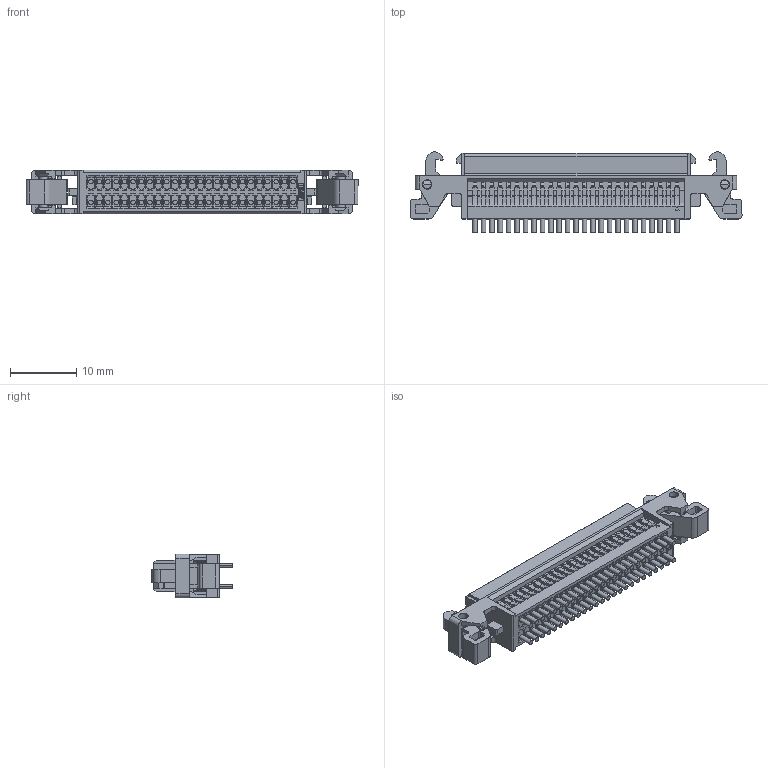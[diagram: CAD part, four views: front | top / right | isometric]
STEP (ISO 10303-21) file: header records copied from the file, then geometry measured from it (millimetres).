
FILE_DESCRIPTION(('Creo Elements/Direct Modeling STEP Export'),'2;1');
FILE_NAME('P3C988_8929E-050.stp','2017-10-13T14:10:30',(''),(''),'Creo Elements/Direct Modeling STEP processor for AP214 (Solid Model)','Creo Elements/Direct Modeling 19.0F 14-Feb-2017 (C) Parametric Technology GmbH','');
FILE_SCHEMA(('AUTOMOTIVE_DESIGN { 1 0 10303 214 1 1 1 1 }'));
Products named in the file (2): 8929E-050
Assembly tree (1 placements, depth 2):
  8929E-050
    8929E-050
Bounding box: 50.08 x 12.25 x 6.6 mm (x, y, z)
Volume: 1910.7 mm3; surface area: 2620.8 mm2
Topology: 1 solids, 1 shells, 2459 faces, 6562 edges, 4332 vertices
Faces by surface type: plane 1983, cylinder 468, torus 8
Entity records: 75498 total; most frequent: CARTESIAN_POINT 14004, ORIENTED_EDGE 13124, DIRECTION 11994, EDGE_CURVE 6562, VECTOR 5554, LINE 5554, VERTEX_POINT 4332, AXIS2_PLACEMENT_3D 3220
